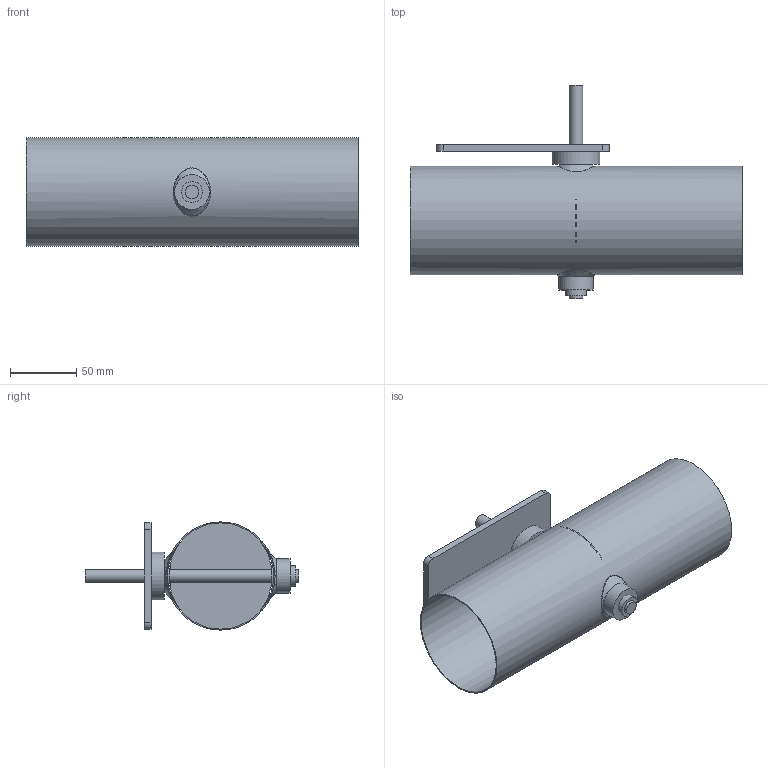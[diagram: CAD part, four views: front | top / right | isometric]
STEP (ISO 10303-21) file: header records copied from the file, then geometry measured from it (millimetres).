
FILE_DESCRIPTION(/* description */ (''),/* implementation_level */ '2;1');
FILE_NAME(/* name */ 'AA118-80B__80_L250_Belimo_Typ_LM.stp',/* time_stamp */ '2017-12-05T13:07:34+01:00',/* author */ (''),/* organization */ (''),/* preprocessor_version */ 'ST-DEVELOPER v11',/* originating_system */ 'SIEMENS UGS NX 6.0',/* authorisation */ '');
FILE_SCHEMA (('CONFIG_CONTROL_DESIGN'));
Length unit declared in the file: millimetre
Products named in the file (1): gars1E3Bhifi
Bounding box: 250 x 161 x 81.6 mm (x, y, z)
Volume: 136985 mm3; surface area: 174914.2 mm2
Topology: 8 solids, 8 shells, 64 faces, 136 edges, 94 vertices
Faces by surface type: plane 28, cylinder 24, cone 4, bspline 4, torus 4
Full cylindrical faces by diameter (mm): 4.1 x2, 10 x3, 15 x3, 15.85 x2, 16 x2, 24 x2, 26 x1, 36 x1, 80 x1, 81.6 x1
Entity records: 2256 total; most frequent: CARTESIAN_POINT 961, DIRECTION 258, ORIENTED_EDGE 176, EDGE_LOOP 120, AXIS2_PLACEMENT_3D 117, FACE_BOUND 106, EDGE_CURVE 88, VERTEX_POINT 76
